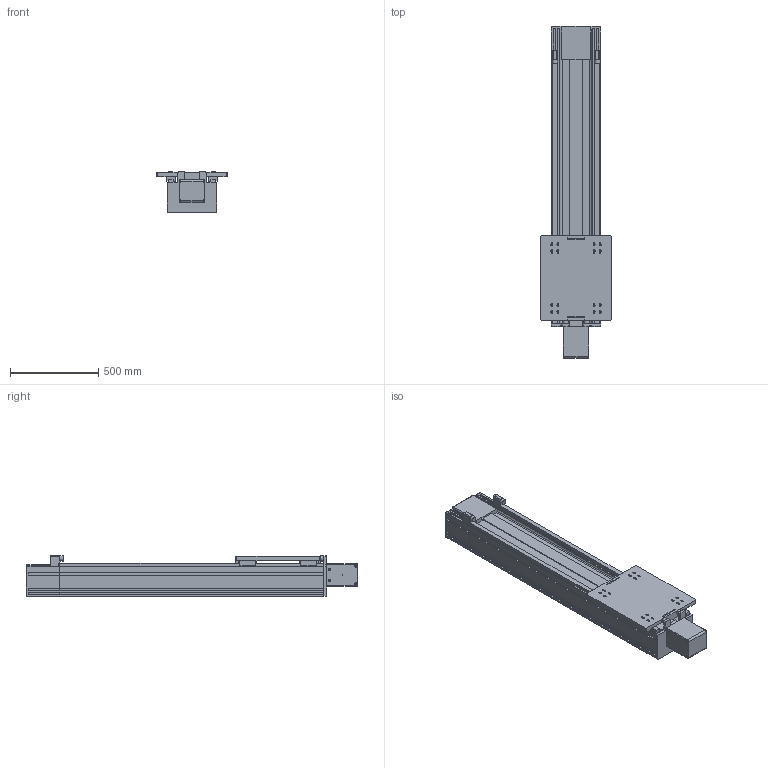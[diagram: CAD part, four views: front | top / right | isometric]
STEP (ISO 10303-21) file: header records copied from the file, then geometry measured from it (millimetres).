
FILE_DESCRIPTION((''),'2;1');
FILE_NAME('\\Tecnoc00\tecno center\Direzione Tecnica\ARCHIVIO DISEGNI\CAD\Modline\3D\serie T\Tc 280\Tcs 280.stp','2010-02-15T17:16:32',('sluciani'),(''),'Autodesk Inventor 2009','Autodesk Inventor 2009','');
FILE_SCHEMA(('AUTOMOTIVE_DESIGN { 1 0 10303 214 1 1 1 1 }'));
Length unit declared in the file: millimetre
Products named in the file (9): Tcs 280; Tlf Tcr_s_p 280; Piastra di coll; Profilo Pratyca; Tlm Tc 220_280; Guida taglia 25; Piastra Tcs 280; pattino taglia 25; Cinghia l75
Assembly tree (12 placements, depth 2):
  Tcs 280
    Tlf Tcr_s_p 280
    Piastra di coll
    Profilo Pratyca
    Tlm Tc 220_280
    Guida taglia 25  x2
    Piastra Tcs 280
    pattino taglia 25  x4
    Cinghia l75
Bounding box: 400 x 1885 x 231 mm (x, y, z)
Volume: 83810254 mm3; surface area: 3749662.2 mm2
Topology: 13 solids, 13 shells, 767 faces, 1888 edges, 1225 vertices
Faces by surface type: plane 491, cylinder 122, bspline 116, cone 20, torus 12, sphere 6
Full cylindrical faces by diameter (mm): 10 x16, 13 x4, 14 x4, 30 x4
Entity records: 22502 total; most frequent: CARTESIAN_POINT 4846, ORIENTED_EDGE 3424, DIRECTION 3364, EDGE_CURVE 1712, VECTOR 1344, LINE 1344, VERTEX_POINT 1178, AXIS2_PLACEMENT_3D 1010
